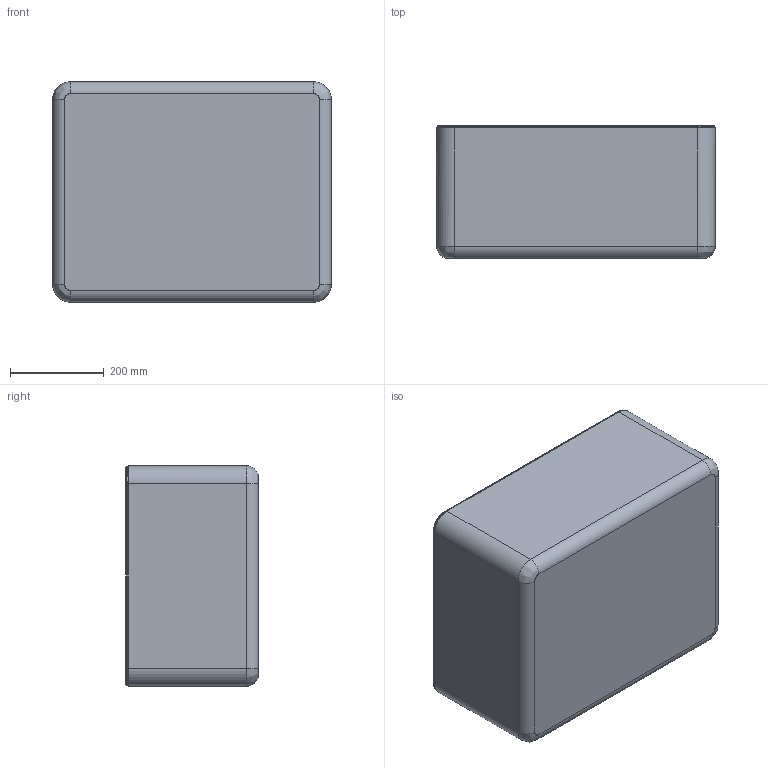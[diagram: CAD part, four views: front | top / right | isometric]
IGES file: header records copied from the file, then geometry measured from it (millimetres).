
Start section: SolidWorks IGES file using analytic representation for surfaces
Global section: file name: V:\NANUK\NANUK Marketing\NANUK Technical Drawings\3D Files\IGES\960\960_Bottom_INNER SURFACES.IGS; native system: SolidWorks 2014; preprocessor: SolidWorks 2014; author: plouimet; date: 140520.142916; units: inch
Bounding box: 594.98 x 283.79 x 470.49 mm (x, y, z)
Surface area: 1622486.6 mm2 (no closed solid volume)
Topology: 0 solids, 0 shells, 558 faces, 7048 edges, 7038 vertices
Faces by surface type: bspline 349, revolution 209
